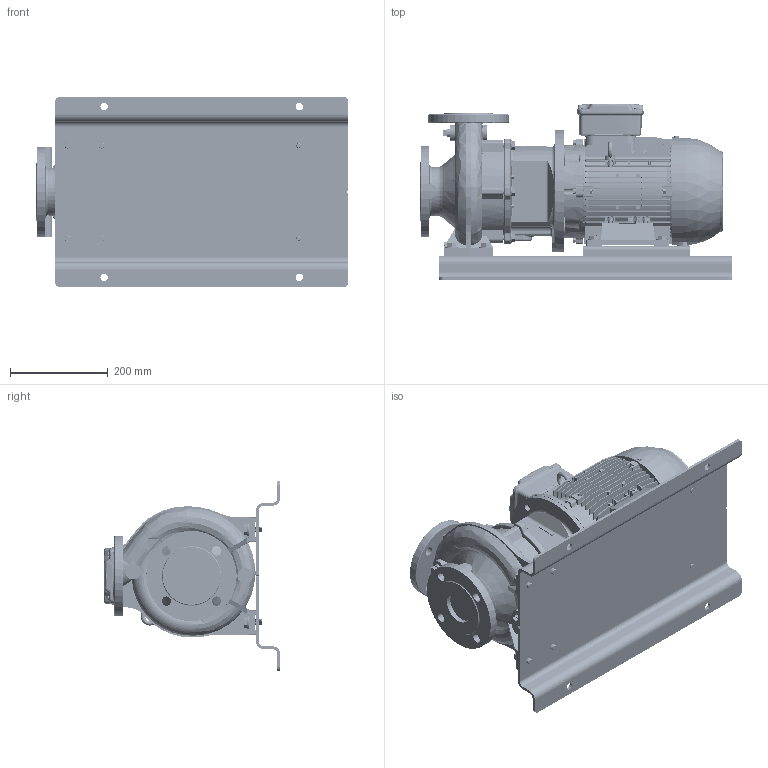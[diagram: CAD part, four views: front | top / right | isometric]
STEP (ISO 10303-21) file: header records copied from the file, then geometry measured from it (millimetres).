
FILE_DESCRIPTION (( 'STEP AP214' ), '1' );
FILE_NAME ('GSD2 50-125_4.0_(112M)_W21_BP.STEP', '2024-04-25T23:44:27', ( '' ), ( '' ), 'SwSTEP 2.0', 'SolidWorks 2019', '' );
FILE_SCHEMA (( 'AUTOMOTIVE_DESIGN' ));
Length unit declared in the file: millimetre
Products named in the file (9): 140 x 20 - 271472024; Parametric bolt_SFT-A299B; Parametric bolt_SFT-A253B; 112M ALIE3_W21T_B35; Parametric Flat Washer_M12; 50-125-112M; GSD2  50-125_4.0_(112M)_W21_BP; Parametric Flat Washer_M10; N3S3 GSDA-333 F1-1832905-00
Assembly tree (25 placements, depth 2):
  GSD2  50-125_4.0_(112M)_W21_BP
    50-125-112M
    112M ALIE3_W21T_B35
    N3S3 GSDA-333 F1-1832905-00
    140 x 20 - 271472024  x2
    Parametric bolt_SFT-A299B  x4
    Parametric bolt_SFT-A253B  x6
    Parametric Flat Washer_M10  x6
    Parametric Flat Washer_M12  x4
Bounding box: 640 x 362 x 390 mm (x, y, z)
Volume: 20316693.3 mm3; surface area: 2008157.3 mm2
Topology: 42 solids, 44 shells, 5166 faces, 13879 edges, 9077 vertices
Faces by surface type: plane 2677, cylinder 1235, bspline 510, torus 368, cone 365, sphere 11
Entity records: 209954 total; most frequent: CARTESIAN_POINT 86538, ORIENTED_EDGE 25306, DIRECTION 20451, EDGE_CURVE 12653, VERTEX_POINT 8288, VECTOR 7109, LINE 7109, AXIS2_PLACEMENT_3D 6671
